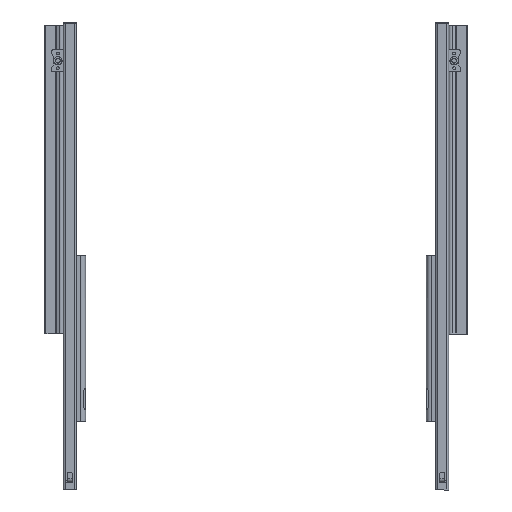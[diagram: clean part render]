
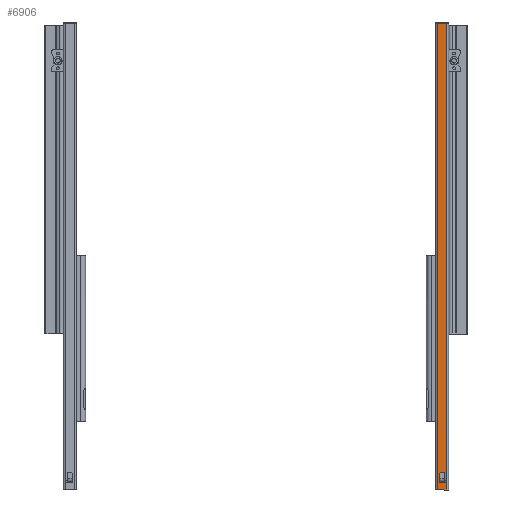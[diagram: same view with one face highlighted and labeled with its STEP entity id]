
A CAD part, front view. The second image highlights one B-rep face of the part: STEP entity #6906.
In plain terms, the highlighted planar face has unit normal (0, -1, 0).
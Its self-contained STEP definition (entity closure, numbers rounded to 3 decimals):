
#126=FACE_BOUND('',#950,.T.);
#516=FACE_OUTER_BOUND('',#949,.T.);
#949=EDGE_LOOP('',(#5133,#5134,#5135,#5136));
#950=EDGE_LOOP('',(#5137,#5138,#5139,#5140));
#1444=LINE('',#10423,#2074);
#1447=LINE('',#10429,#2077);
#1450=LINE('',#10461,#2080);
#1453=LINE('',#10468,#2083);
#1510=LINE('',#10655,#2140);
#1511=LINE('',#10659,#2141);
#1512=LINE('',#10661,#2142);
#1513=LINE('',#10662,#2143);
#2074=VECTOR('',#8436,10.);
#2077=VECTOR('',#8441,10.);
#2080=VECTOR('',#8446,10.);
#2083=VECTOR('',#8457,10.);
#2140=VECTOR('',#8648,10.);
#2141=VECTOR('',#8653,10.);
#2142=VECTOR('',#8654,10.);
#2143=VECTOR('',#8655,10.);
#2990=VERTEX_POINT('',#10420);
#2991=VERTEX_POINT('',#10422);
#2993=VERTEX_POINT('',#10428);
#2994=VERTEX_POINT('',#10460);
#3056=VERTEX_POINT('',#10652);
#3057=VERTEX_POINT('',#10654);
#3058=VERTEX_POINT('',#10658);
#3059=VERTEX_POINT('',#10660);
#3721=EDGE_CURVE('',#2990,#2991,#1444,.T.);
#3724=EDGE_CURVE('',#2991,#2993,#1447,.T.);
#3728=EDGE_CURVE('',#2993,#2994,#1450,.T.);
#3731=EDGE_CURVE('',#2994,#2990,#1453,.T.);
#3820=EDGE_CURVE('',#3056,#3057,#1510,.T.);
#3822=EDGE_CURVE('',#3056,#3058,#1511,.T.);
#3823=EDGE_CURVE('',#3058,#3059,#1512,.T.);
#3824=EDGE_CURVE('',#3059,#3057,#1513,.T.);
#5133=ORIENTED_EDGE('',*,*,#3822,.T.);
#5134=ORIENTED_EDGE('',*,*,#3823,.T.);
#5135=ORIENTED_EDGE('',*,*,#3824,.T.);
#5136=ORIENTED_EDGE('',*,*,#3820,.F.);
#5137=ORIENTED_EDGE('',*,*,#3721,.F.);
#5138=ORIENTED_EDGE('',*,*,#3731,.F.);
#5139=ORIENTED_EDGE('',*,*,#3728,.F.);
#5140=ORIENTED_EDGE('',*,*,#3724,.F.);
#6267=PLANE('',#7435);
#6906=ADVANCED_FACE('',(#516,#126),#6267,.F.);
#7435=AXIS2_PLACEMENT_3D('',#10657,#8651,#8652);
#8436=DIRECTION('',(0.,0.,-1.));
#8441=DIRECTION('',(1.,0.,0.));
#8446=DIRECTION('',(0.,0.,1.));
#8457=DIRECTION('',(-1.,0.,0.));
#8648=DIRECTION('',(0.,0.,-1.));
#8651=DIRECTION('center_axis',(0.,1.,0.));
#8652=DIRECTION('ref_axis',(1.,0.,0.));
#8653=DIRECTION('',(-1.,0.,0.));
#8654=DIRECTION('',(0.,0.,-1.));
#8655=DIRECTION('',(1.,0.,0.));
#10420=CARTESIAN_POINT('',(38.034,8.,-387.097));
#10422=CARTESIAN_POINT('',(38.034,8.,-388.597));
#10423=CARTESIAN_POINT('',(38.034,8.,-139.597));
#10428=CARTESIAN_POINT('',(44.652,8.,-388.597));
#10429=CARTESIAN_POINT('',(38.843,8.,-388.597));
#10460=CARTESIAN_POINT('',(44.652,8.,-387.097));
#10461=CARTESIAN_POINT('',(44.652,8.,-139.597));
#10468=CARTESIAN_POINT('',(38.843,8.,-387.097));
#10652=CARTESIAN_POINT('',(46.343,8.,107.903));
#10654=CARTESIAN_POINT('',(46.343,8.,-397.097));
#10655=CARTESIAN_POINT('',(46.343,8.,107.903));
#10657=CARTESIAN_POINT('Origin',(36.343,8.,107.903));
#10658=CARTESIAN_POINT('',(36.343,8.,107.903));
#10659=CARTESIAN_POINT('',(46.343,8.,107.903));
#10660=CARTESIAN_POINT('',(36.343,8.,-397.097));
#10661=CARTESIAN_POINT('',(36.343,8.,107.903));
#10662=CARTESIAN_POINT('',(46.343,8.,-397.097));
